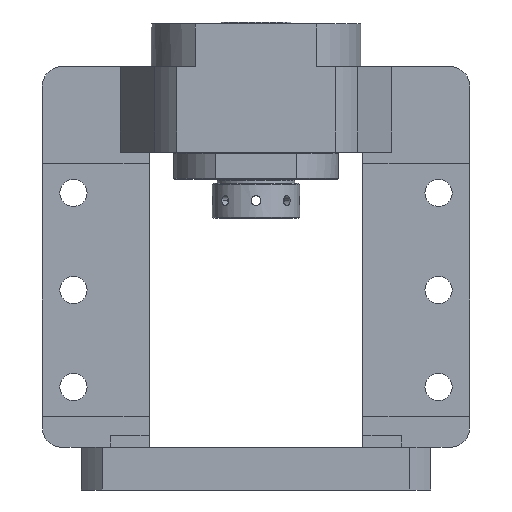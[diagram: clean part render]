
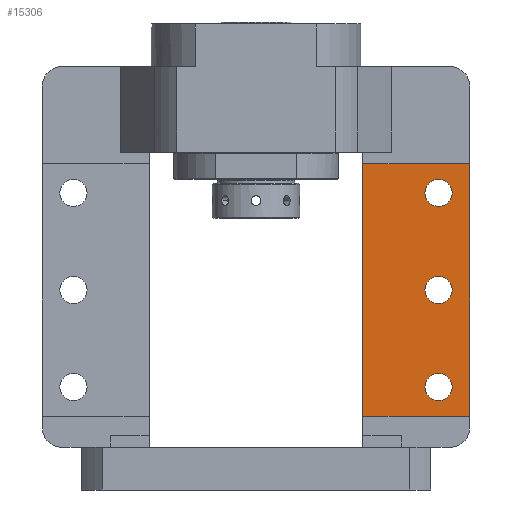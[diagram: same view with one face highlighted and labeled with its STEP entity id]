
A CAD part, front view. The second image highlights one B-rep face of the part: STEP entity #15306.
In plain terms, the highlighted planar face has unit normal (0, -1, 0).
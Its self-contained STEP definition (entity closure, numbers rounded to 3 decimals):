
#163 = LINE ( 'NONE', #5378, #12933 ) ;
#323 = CARTESIAN_POINT ( 'NONE',  ( 94., 0., 46. ) ) ;
#692 = AXIS2_PLACEMENT_3D ( 'NONE', #3613, #12545, #4905 ) ;
#1047 = ORIENTED_EDGE ( 'NONE', *, *, #11163, .F. ) ;
#1239 = PLANE ( 'NONE',  #10944 ) ;
#1306 = EDGE_CURVE ( 'NONE', #3831, #15713, #4488, .T. ) ;
#1934 = LINE ( 'NONE', #3713, #15105 ) ;
#2196 = LINE ( 'NONE', #5820, #12377 ) ;
#2258 = CARTESIAN_POINT ( 'NONE',  ( 94., 0., 110. ) ) ;
#2567 = DIRECTION ( 'NONE',  ( 0., -1., 0. ) ) ;
#2744 = EDGE_LOOP ( 'NONE', ( #8334, #10226 ) ) ;
#2749 = FACE_BOUND ( 'NONE', #11617, .T. ) ;
#3043 = CARTESIAN_POINT ( 'NONE',  ( 94., 0., 160. ) ) ;
#3191 = CARTESIAN_POINT ( 'NONE',  ( 94., 0., 146. ) ) ;
#3346 = VECTOR ( 'NONE', #14318, 1000. ) ;
#3482 = DIRECTION ( 'NONE',  ( 0., -1., 0. ) ) ;
#3613 = CARTESIAN_POINT ( 'NONE',  ( 94., 0., 103. ) ) ;
#3713 = CARTESIAN_POINT ( 'NONE',  ( 110., 0., 38. ) ) ;
#3831 = VERTEX_POINT ( 'NONE', #3043 ) ;
#3866 = CARTESIAN_POINT ( 'NONE',  ( 110., 0., 225. ) ) ;
#3927 = DIRECTION ( 'NONE',  ( 0., -1., 0. ) ) ;
#4488 = CIRCLE ( 'NONE', #9825, 7. ) ;
#4527 = CARTESIAN_POINT ( 'NONE',  ( 94., 0., 96. ) ) ;
#4618 = ORIENTED_EDGE ( 'NONE', *, *, #11072, .F. ) ;
#4905 = DIRECTION ( 'NONE',  ( 0., 0., -1. ) ) ;
#5005 = EDGE_CURVE ( 'NONE', #7656, #5442, #13529, .T. ) ;
#5076 = DIRECTION ( 'NONE',  ( 0., -1., 0. ) ) ;
#5164 = DIRECTION ( 'NONE',  ( 0., 0., -1. ) ) ;
#5321 = VERTEX_POINT ( 'NONE', #14820 ) ;
#5378 = CARTESIAN_POINT ( 'NONE',  ( 55., 0., 225. ) ) ;
#5406 = CARTESIAN_POINT ( 'NONE',  ( 110., 0., 168. ) ) ;
#5442 = VERTEX_POINT ( 'NONE', #9893 ) ;
#5546 = EDGE_CURVE ( 'NONE', #6139, #14276, #1934, .T. ) ;
#5671 = AXIS2_PLACEMENT_3D ( 'NONE', #12706, #5076, #13982 ) ;
#5765 = FACE_OUTER_BOUND ( 'NONE', #11229, .T. ) ;
#5820 = CARTESIAN_POINT ( 'NONE',  ( 110., 0., 225. ) ) ;
#6139 = VERTEX_POINT ( 'NONE', #12986 ) ;
#6273 = DIRECTION ( 'NONE',  ( 1., 0., 0. ) ) ;
#7102 = ORIENTED_EDGE ( 'NONE', *, *, #15465, .T. ) ;
#7387 = CARTESIAN_POINT ( 'NONE',  ( 110., 0., 38. ) ) ;
#7469 = CARTESIAN_POINT ( 'NONE',  ( 110., 0., 168. ) ) ;
#7656 = VERTEX_POINT ( 'NONE', #7469 ) ;
#8334 = ORIENTED_EDGE ( 'NONE', *, *, #12785, .F. ) ;
#8609 = CIRCLE ( 'NONE', #5671, 7. ) ;
#9126 = FACE_BOUND ( 'NONE', #10287, .T. ) ;
#9409 = CIRCLE ( 'NONE', #692, 7. ) ;
#9587 = ORIENTED_EDGE ( 'NONE', *, *, #15341, .F. ) ;
#9741 = ORIENTED_EDGE ( 'NONE', *, *, #5005, .T. ) ;
#9742 = AXIS2_PLACEMENT_3D ( 'NONE', #11112, #3482, #12406 ) ;
#9825 = AXIS2_PLACEMENT_3D ( 'NONE', #13665, #13646, #13607 ) ;
#9893 = CARTESIAN_POINT ( 'NONE',  ( 55., 0., 168. ) ) ;
#9952 = CIRCLE ( 'NONE', #14235, 7. ) ;
#10071 = AXIS2_PLACEMENT_3D ( 'NONE', #11543, #3927, #12842 ) ;
#10183 = CARTESIAN_POINT ( 'NONE',  ( 94., 0., 53. ) ) ;
#10226 = ORIENTED_EDGE ( 'NONE', *, *, #1306, .F. ) ;
#10287 = EDGE_LOOP ( 'NONE', ( #9587, #4618 ) ) ;
#10368 = VERTEX_POINT ( 'NONE', #2258 ) ;
#10944 = AXIS2_PLACEMENT_3D ( 'NONE', #3866, #12789, #5164 ) ;
#11072 = EDGE_CURVE ( 'NONE', #10368, #16420, #9409, .T. ) ;
#11112 = CARTESIAN_POINT ( 'NONE',  ( 94., 0., 153. ) ) ;
#11163 = EDGE_CURVE ( 'NONE', #11457, #5321, #8609, .T. ) ;
#11229 = EDGE_LOOP ( 'NONE', ( #13913, #9741, #7102, #13277 ) ) ;
#11457 = VERTEX_POINT ( 'NONE', #323 ) ;
#11477 = DIRECTION ( 'NONE',  ( 0., 0., -1. ) ) ;
#11543 = CARTESIAN_POINT ( 'NONE',  ( 94., 0., 103. ) ) ;
#11617 = EDGE_LOOP ( 'NONE', ( #1047, #14696 ) ) ;
#12377 = VECTOR ( 'NONE', #14737, 1000. ) ;
#12406 = DIRECTION ( 'NONE',  ( 0., 0., -1. ) ) ;
#12534 = FACE_BOUND ( 'NONE', #2744, .T. ) ;
#12545 = DIRECTION ( 'NONE',  ( 0., -1., 0. ) ) ;
#12706 = CARTESIAN_POINT ( 'NONE',  ( 94., 0., 53. ) ) ;
#12785 = EDGE_CURVE ( 'NONE', #15713, #3831, #14169, .T. ) ;
#12789 = DIRECTION ( 'NONE',  ( 0., -1., 0. ) ) ;
#12842 = DIRECTION ( 'NONE',  ( 0., 0., -1. ) ) ;
#12933 = VECTOR ( 'NONE', #14287, 1000. ) ;
#12986 = CARTESIAN_POINT ( 'NONE',  ( 55., 0., 38. ) ) ;
#13277 = ORIENTED_EDGE ( 'NONE', *, *, #5546, .T. ) ;
#13377 = EDGE_CURVE ( 'NONE', #7656, #14276, #2196, .T. ) ;
#13529 = LINE ( 'NONE', #5406, #3346 ) ;
#13607 = DIRECTION ( 'NONE',  ( 0., 0., -1. ) ) ;
#13629 = EDGE_CURVE ( 'NONE', #5321, #11457, #9952, .T. ) ;
#13646 = DIRECTION ( 'NONE',  ( 0., -1., 0. ) ) ;
#13665 = CARTESIAN_POINT ( 'NONE',  ( 94., 0., 153. ) ) ;
#13913 = ORIENTED_EDGE ( 'NONE', *, *, #13377, .F. ) ;
#13982 = DIRECTION ( 'NONE',  ( 0., 0., -1. ) ) ;
#14169 = CIRCLE ( 'NONE', #9742, 7. ) ;
#14235 = AXIS2_PLACEMENT_3D ( 'NONE', #10183, #2567, #11477 ) ;
#14276 = VERTEX_POINT ( 'NONE', #7387 ) ;
#14287 = DIRECTION ( 'NONE',  ( 0., 0., -1. ) ) ;
#14318 = DIRECTION ( 'NONE',  ( -1., 0., 0. ) ) ;
#14696 = ORIENTED_EDGE ( 'NONE', *, *, #13629, .F. ) ;
#14737 = DIRECTION ( 'NONE',  ( 0., 0., -1. ) ) ;
#14820 = CARTESIAN_POINT ( 'NONE',  ( 94., 0., 60. ) ) ;
#15105 = VECTOR ( 'NONE', #6273, 1000. ) ;
#15306 = ADVANCED_FACE ( 'NONE', ( #12534, #2749, #9126, #5765 ), #1239, .T. ) ;
#15341 = EDGE_CURVE ( 'NONE', #16420, #10368, #15927, .T. ) ;
#15465 = EDGE_CURVE ( 'NONE', #5442, #6139, #163, .T. ) ;
#15713 = VERTEX_POINT ( 'NONE', #3191 ) ;
#15927 = CIRCLE ( 'NONE', #10071, 7. ) ;
#16420 = VERTEX_POINT ( 'NONE', #4527 ) ;
